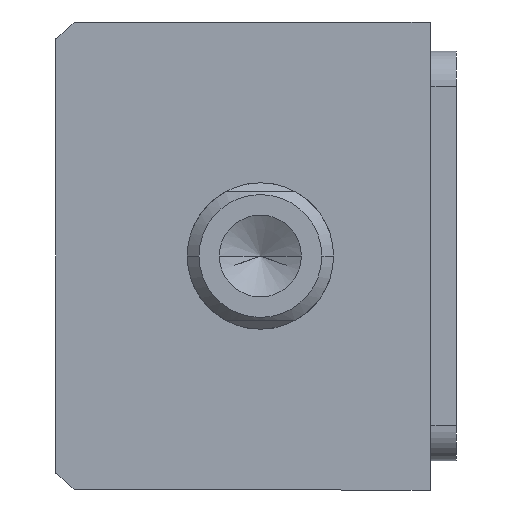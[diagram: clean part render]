
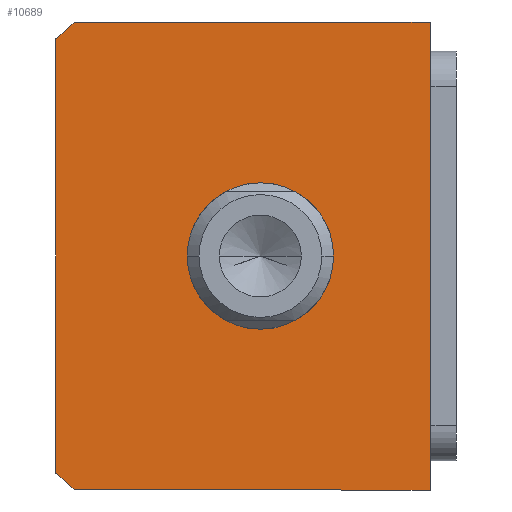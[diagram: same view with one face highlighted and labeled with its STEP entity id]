
A CAD part, front view. The second image highlights one B-rep face of the part: STEP entity #10689.
In plain terms, the highlighted planar face has unit normal (0, -1, 0) as drawn and (0, 0, -1) by its records, which use the part's own axes.
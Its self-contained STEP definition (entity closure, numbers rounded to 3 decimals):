
#124 = EDGE_LOOP ( 'NONE', ( #9413, #6566 ) ) ;
#307 = CARTESIAN_POINT ( 'NONE',  ( 0., 3., 0. ) ) ;
#427 = LINE ( 'NONE', #7290, #8976 ) ;
#447 = CARTESIAN_POINT ( 'NONE',  ( -40., 32., 0. ) ) ;
#454 = DIRECTION ( 'NONE',  ( 0., 0., 1. ) ) ;
#566 = FACE_BOUND ( 'NONE', #124, .T. ) ;
#634 = VECTOR ( 'NONE', #5399, 1000. ) ;
#716 = ORIENTED_EDGE ( 'NONE', *, *, #10182, .F. ) ;
#836 = AXIS2_PLACEMENT_3D ( 'NONE', #4216, #10030, #5066 ) ;
#910 = LINE ( 'NONE', #2238, #9482 ) ;
#1112 = DIRECTION ( 'NONE',  ( 1., 0., 0. ) ) ;
#1262 = CARTESIAN_POINT ( 'NONE',  ( -37.094, -32., 0. ) ) ;
#1479 = CARTESIAN_POINT ( 'NONE',  ( -40., -28.639, 0. ) ) ;
#2107 = AXIS2_PLACEMENT_3D ( 'NONE', #3657, #9489, #4520 ) ;
#2238 = CARTESIAN_POINT ( 'NONE',  ( -40., 32., 0. ) ) ;
#2288 = DIRECTION ( 'NONE',  ( 0., 1., 0. ) ) ;
#2878 = ORIENTED_EDGE ( 'NONE', *, *, #5283, .F. ) ;
#3110 = AXIS2_PLACEMENT_3D ( 'NONE', #3189, #4046, #9863 ) ;
#3189 = CARTESIAN_POINT ( 'NONE',  ( 0., 0., 0. ) ) ;
#3312 = ORIENTED_EDGE ( 'NONE', *, *, #7844, .F. ) ;
#3343 = CARTESIAN_POINT ( 'NONE',  ( -40., 32., 0. ) ) ;
#3657 = CARTESIAN_POINT ( 'NONE',  ( 0., 3., 0. ) ) ;
#3851 = EDGE_CURVE ( 'NONE', #9586, #9324, #5710, .T. ) ;
#3943 = DIRECTION ( 'NONE',  ( 0., -1., 0. ) ) ;
#4046 = DIRECTION ( 'NONE',  ( 0., 0., 1. ) ) ;
#4130 = VERTEX_POINT ( 'NONE', #1479 ) ;
#4216 = CARTESIAN_POINT ( 'NONE',  ( 0., 3., 0. ) ) ;
#4234 = CARTESIAN_POINT ( 'NONE',  ( 37.094, -32., 0. ) ) ;
#4513 = LINE ( 'NONE', #447, #634 ) ;
#4520 = DIRECTION ( 'NONE',  ( 1., 0., 0. ) ) ;
#4765 = VERTEX_POINT ( 'NONE', #4780 ) ;
#4780 = CARTESIAN_POINT ( 'NONE',  ( 40., 32., 0. ) ) ;
#4823 = AXIS2_PLACEMENT_3D ( 'NONE', #5405, #454, #6259 ) ;
#4936 = VERTEX_POINT ( 'NONE', #9111 ) ;
#4961 = FACE_OUTER_BOUND ( 'NONE', #8393, .T. ) ;
#5066 = DIRECTION ( 'NONE',  ( 1., 0., 0. ) ) ;
#5283 = EDGE_CURVE ( 'NONE', #4765, #9189, #4513, .T. ) ;
#5399 = DIRECTION ( 'NONE',  ( -1., 0., 0. ) ) ;
#5405 = CARTESIAN_POINT ( 'NONE',  ( 0., 3., 0. ) ) ;
#5432 = VECTOR ( 'NONE', #6270, 1000. ) ;
#5703 = PLANE ( 'NONE',  #3110 ) ;
#5710 = LINE ( 'NONE', #6123, #5432 ) ;
#6115 = DIRECTION ( 'NONE',  ( 0., 0., 1. ) ) ;
#6123 = CARTESIAN_POINT ( 'NONE',  ( -40., -32., 0. ) ) ;
#6259 = DIRECTION ( 'NONE',  ( 1., 0., 0. ) ) ;
#6270 = DIRECTION ( 'NONE',  ( 1., 0., 0. ) ) ;
#6409 = CIRCLE ( 'NONE', #4823, 51. ) ;
#6513 = CIRCLE ( 'NONE', #836, 12.5 ) ;
#6566 = ORIENTED_EDGE ( 'NONE', *, *, #8807, .T. ) ;
#7290 = CARTESIAN_POINT ( 'NONE',  ( 40., 32., 0. ) ) ;
#7607 = EDGE_CURVE ( 'NONE', #4936, #8130, #9753, .T. ) ;
#7844 = EDGE_CURVE ( 'NONE', #9252, #4765, #427, .T. ) ;
#7881 = ORIENTED_EDGE ( 'NONE', *, *, #10749, .F. ) ;
#8021 = AXIS2_PLACEMENT_3D ( 'NONE', #307, #6115, #1112 ) ;
#8039 = ORIENTED_EDGE ( 'NONE', *, *, #8514, .F. ) ;
#8130 = VERTEX_POINT ( 'NONE', #9283 ) ;
#8301 = ORIENTED_EDGE ( 'NONE', *, *, #3851, .F. ) ;
#8361 = CARTESIAN_POINT ( 'NONE',  ( 40., -28.639, 0. ) ) ;
#8393 = EDGE_LOOP ( 'NONE', ( #716, #8039, #2878, #3312, #7881, #8301 ) ) ;
#8514 = EDGE_CURVE ( 'NONE', #9189, #4130, #910, .T. ) ;
#8807 = EDGE_CURVE ( 'NONE', #8130, #4936, #6513, .T. ) ;
#8976 = VECTOR ( 'NONE', #2288, 1000. ) ;
#9111 = CARTESIAN_POINT ( 'NONE',  ( 12.5, 3., 0. ) ) ;
#9189 = VERTEX_POINT ( 'NONE', #3343 ) ;
#9226 = CIRCLE ( 'NONE', #8021, 51. ) ;
#9252 = VERTEX_POINT ( 'NONE', #8361 ) ;
#9283 = CARTESIAN_POINT ( 'NONE',  ( -12.5, 3., 0. ) ) ;
#9324 = VERTEX_POINT ( 'NONE', #4234 ) ;
#9413 = ORIENTED_EDGE ( 'NONE', *, *, #7607, .T. ) ;
#9482 = VECTOR ( 'NONE', #3943, 1000. ) ;
#9489 = DIRECTION ( 'NONE',  ( 0., 0., 1. ) ) ;
#9586 = VERTEX_POINT ( 'NONE', #1262 ) ;
#9753 = CIRCLE ( 'NONE', #2107, 12.5 ) ;
#9863 = DIRECTION ( 'NONE',  ( 1., 0., 0. ) ) ;
#10030 = DIRECTION ( 'NONE',  ( 0., 0., 1. ) ) ;
#10182 = EDGE_CURVE ( 'NONE', #4130, #9586, #9226, .T. ) ;
#10689 = ADVANCED_FACE ( 'NONE', ( #566, #4961 ), #5703, .F. ) ;
#10749 = EDGE_CURVE ( 'NONE', #9324, #9252, #6409, .T. ) ;
